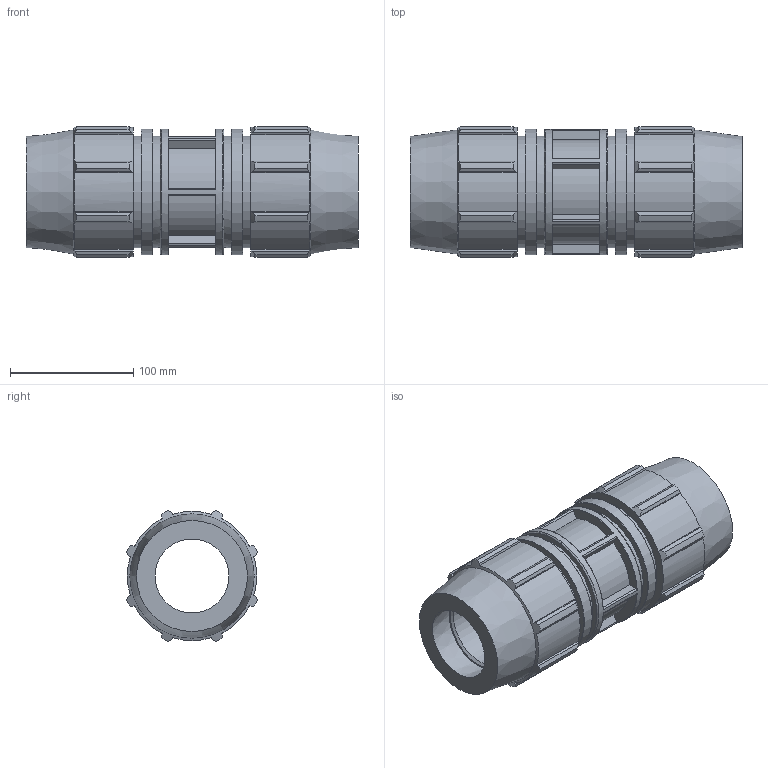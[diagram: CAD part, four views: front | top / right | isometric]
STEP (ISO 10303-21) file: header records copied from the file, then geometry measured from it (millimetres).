
FILE_DESCRIPTION(/* description */ ('PLASSON REPAIR COUPLER 2'''' - 2'''''),/* implementation_level */ '2;1');
FILE_NAME(/* name */ 'C:\Dropbox\KIMPROJECTS-Inventor 2019\99-16-3568-Processing Inch\ASTM Compression 2021\0761M\0761M0020.ipt.stp',/* time_stamp */ '2021-08-26T12:34:45+03:00',/* author */ ('KIM'),/* organization */ (''),/* preprocessor_version */ 'ST-DEVELOPER v17.2',/* originating_system */ 'Autodesk Inventor 2019',/* authorisation */ '');
FILE_SCHEMA (('AUTOMOTIVE_DESIGN { 1 0 10303 214 3 1 1 }'));
Length unit declared in the file: inch
Products named in the file (1): 0761M0020
Bounding box: 269.75 x 106.35 x 106.35 mm (x, y, z)
Volume: 1287958 mm3; surface area: 170652 mm2
Topology: 1 solids, 1 shells, 200 faces, 572 edges, 390 vertices
Faces by surface type: plane 100, cylinder 58, cone 24, torus 18
Full cylindrical faces by diameter (mm): 60.1 x1, 90.424 x4, 101.727 x3
Entity records: 6767 total; most frequent: CARTESIAN_POINT 1483, ORIENTED_EDGE 1144, DIRECTION 1102, EDGE_CURVE 572, AXIS2_PLACEMENT_3D 417, VERTEX_POINT 390, LINE 268, VECTOR 268
